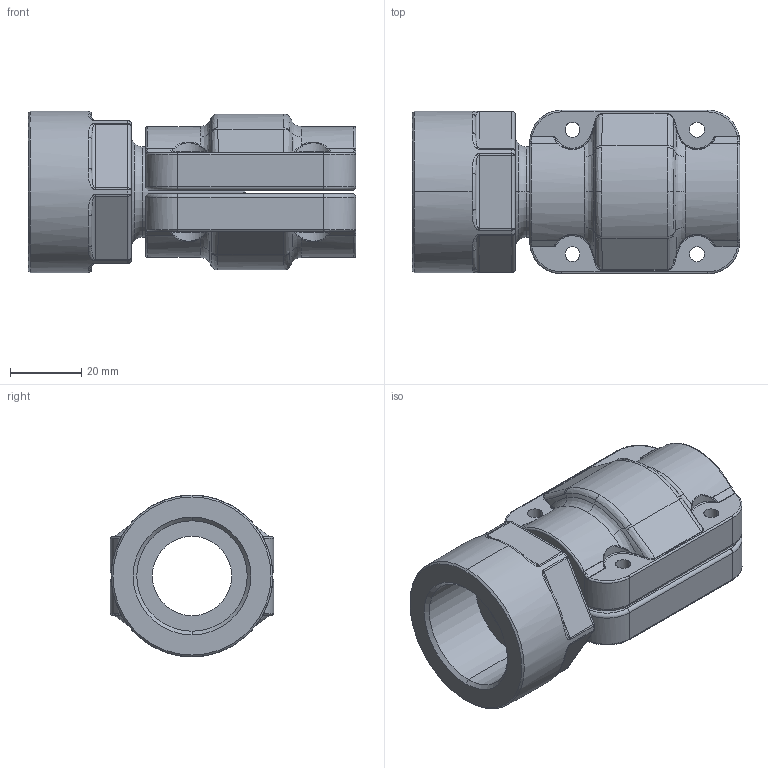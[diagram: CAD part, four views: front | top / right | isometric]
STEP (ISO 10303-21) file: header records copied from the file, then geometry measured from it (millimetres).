
FILE_DESCRIPTION((''),'2;1');
FILE_NAME('AU15221999_ASM_3_ASM','2017-05-16T',('Administrator'),(''),'PRO/ENGINEER BY PARAMETRIC TECHNOLOGY CORPORATION, 2009360','PRO/ENGINEER BY PARAMETRIC TECHNOLOGY CORPORATION, 2009360','');
FILE_SCHEMA(('AUTOMOTIVE_DESIGN_CC2 { 1 2 10303 214 -1 1 5 2 }'));
Length unit declared in the file: millimetre
Products named in the file (5): AU15221900_1; 201520020000_23_1; 201520020001_10_1; 2015200200_ASM_1_ASM; AU15221999_ASM_3_ASM
Assembly tree (4 placements, depth 3):
  AU15221999_ASM_3_ASM
    AU15221900_1
    2015200200_ASM_1_ASM
      201520020000_23_1
      201520020001_10_1
Bounding box: 92.02 x 46 x 45.43 mm (x, y, z)
Volume: 80171.6 mm3; surface area: 31046.7 mm2
Topology: 3 solids, 3 shells, 412 faces, 966 edges, 542 vertices
Faces by surface type: bspline 156, cylinder 128, torus 60, plane 44, sphere 20, cone 4
Entity records: 21059 total; most frequent: CARTESIAN_POINT 9879, ORIENTED_EDGE 1892, DIRECTION 1482, PRESENTATION_STYLE_ASSIGNMENT 949, STYLED_ITEM 949, CURVE_STYLE 946, EDGE_CURVE 946, AXIS2_PLACEMENT_3D 635
